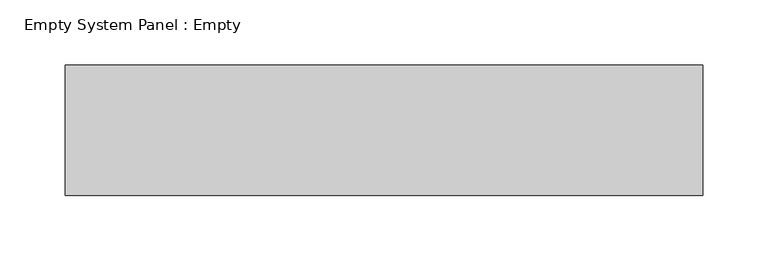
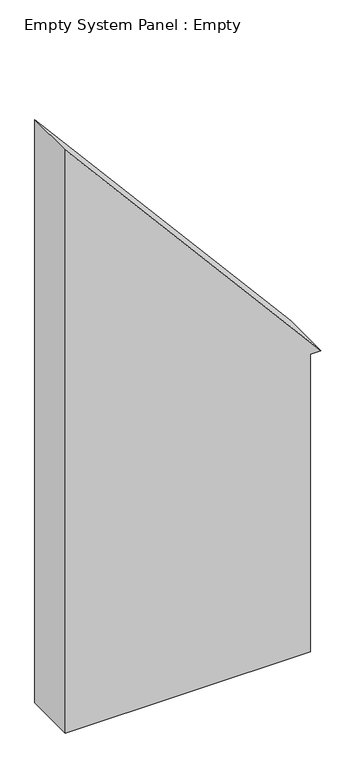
"""IFC4 building model written with IfcOpenShell, lengths in millimetres: plate geometry, Empty System Panel : Empty."""

from ifc_helpers import new_model, si_unit, frame, origin, place, context, project, spatial, polyline, outline, extrude, source, transform, mapped, element, save


def empty_system_panel_empty_d8bf0c53(model_context):
    return source(origin(), model_context, "Body", "SweptSolid", [
        extrude(outline(polyline([(0.0, -244.1589868), (0.0, 224.1589868), (599.3758709, 224.1589868), (599.3758709, 244.1589868), (1175.1690273, -244.1589868), (0.0, -244.1589868)])), frame((0.0, -50.0, 0.0), z_axis=(0.0, 1.0, 0.0), x_axis=(0.0, 0.0, 1.0)), (0.0, 0.0, 1.0), 100.0),
    ])


if __name__ == "__main__":
    model = new_model("IFC4")
    model_context = context("Model", 3, world=origin())
    ifc_project = project(units=[si_unit("LENGTHUNIT", "METRE", prefix="MILLI")], contexts=[model_context])
    site = spatial("IfcSite", under=ifc_project)
    building = spatial("IfcBuilding", under=site)
    placement = place(None, origin())
    empty_system_panel_empty_shape = empty_system_panel_empty_d8bf0c53(model_context)
    element("IfcPlate", 1, ObjectType="Empty System Panel : Empty", at=placement, inside=building, context=model_context, shape_type="MappedRepresentation", body=[
        mapped(empty_system_panel_empty_shape, transform((0.0, 0.0, 0.0), x_axis=(1.0, 0.0, 0.0), y_axis=(0.0, 1.0, 0.0), z_axis=(0.0, 0.0, 1.0))),
    ])
    save(model, "model.ifc")
